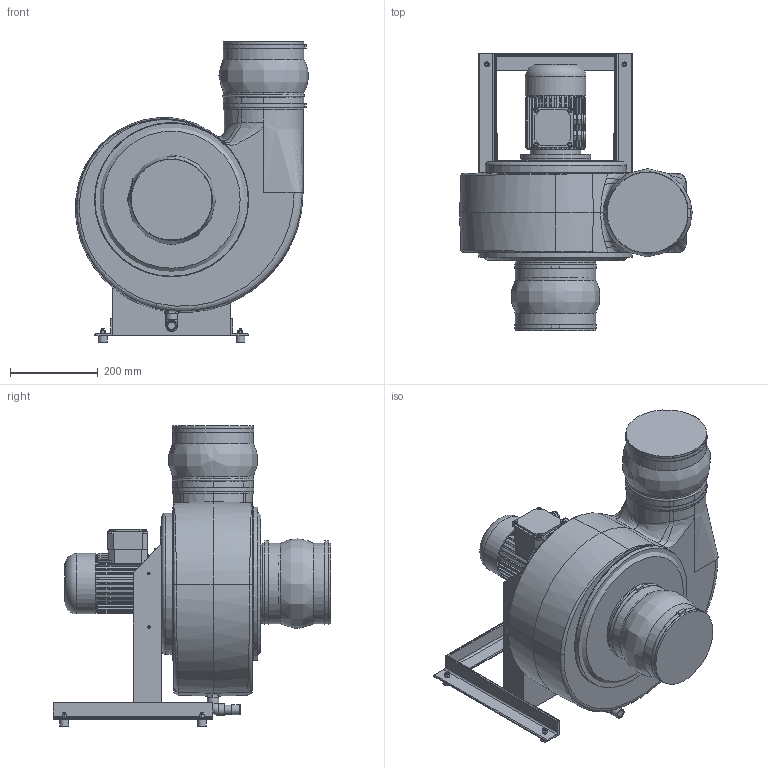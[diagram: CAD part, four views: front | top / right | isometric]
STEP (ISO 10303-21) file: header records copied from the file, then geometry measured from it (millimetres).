
FILE_DESCRIPTION( ( 'Unknown' ), '1' );
FILE_NAME( 'K:/HOME/HLT_CAD/Z/HF/3D/Zusammenstellung/HFR/HFR 15_17/HFR...-15D/DS_1/HFR_180-15D/GR360/HFR_180-15D_DS1_GR_360_071.stp', 'Unknown', ( 'Unknown' ), ( 'Unknown' ), 'PSStep 17.0.49', 'Unknown', ' ' );
FILE_SCHEMA( ( 'AUTOMOTIVE_DESIGN { 1 0 10303 214 1 1 1 1 }' ) );
Length unit declared in the file: millimetre
Products named in the file (30): 5217_Laufradbefestigung; 5217_Drehteil; 5217_Flachdichtung_Ø32; 5217_Schraubkappe; 5217_Flachdichtung_Ø63; 5159_Kondensatablauf_125-315; Winkel_90°_G1_2; Stopfen_G1_2-oa4; Rohr_20; Verschlusskappe_20; Laufrad 180; Nabe 160-315; Deckscheibe 180; 1108_18; 6203_Kugelmanschette; 6203_Manschettenband_HFR180; 6203_Schelle_HFR180; 5294_Gestell; Angle 40x40x4-oa0; Angle 40x40x4-oa1; Angle 40x40x4-oa2; 5294_Gehäusebefestigung-oa3; Assem1; 6611_Motorring_Bg71; 180 mit laufrad HF R 180; HFR 180_GR_abgeschn; B5_71a_2HIHI_gewicht; Schwidä_20x15; 6kant_M6
Assembly tree (37 placements, depth 3):
  Assem1
    6611_Motorring_Bg71
    180 mit laufrad HF R 180
    HFR 180_GR_abgeschn
    B5_71a_2HIHI_gewicht
    Schwidä_20x15  x4
    6kant_M6  x4
    5294_Gestell
      Angle 40x40x4-oa0
      Angle 40x40x4-oa1
      Angle 40x40x4-oa2
      5294_Gehäusebefestigung-oa3
    5159_Kondensatablauf_125-315
      Winkel_90°_G1_2
      Stopfen_G1_2-oa4
      Rohr_20
      Verschlusskappe_20
    6203_Kugelmanschette  x2
      6203_Manschettenband_HFR180
      6203_Schelle_HFR180
    Laufrad 180
      Nabe 160-315
      Laufrad 180
      Deckscheibe 180
      1108_18
    5217_Laufradbefestigung
      5217_Drehteil
      5217_Flachdichtung_Ø32
      5217_Schraubkappe
      5217_Flachdichtung_Ø63
Bounding box: 530.89 x 633 x 684.95 mm (x, y, z)
Volume: 55472753.2 mm3; surface area: 2467696.6 mm2
Topology: 34 solids, 34 shells, 1334 faces, 3226 edges, 2051 vertices
Faces by surface type: plane 734, cylinder 302, cone 128, bspline 126, torus 34, revolution 6, sphere 4
Full cylindrical faces by diameter (mm): 3.5 x3, 4.134 x1, 4.917 x4, 4.92 x4, 5.5 x4, 6 x8, 8 x6, 9 x6, 10 x8, 10.5 x1, 11 x8, 12 x1, 13 x9, 14 x1, 16 x2, 16.8 x1, 17 x1, 20 x8, 20.955 x1, 22.212 x1, 23 x1, 24 x4, 25 x1, 26.5 x2, 30.291 x1, 32 x1, 33.25 x1, 37 x1, 40 x1, 44 x1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
Entity records: 75295 total; most frequent: CARTESIAN_POINT 37176, ORIENTED_EDGE 5656, DIRECTION 5281, EDGE_CURVE 2828, AXIS2_PLACEMENT_3D 1942, VERTEX_POINT 1878, EDGE_LOOP 1572, LINE 1391
